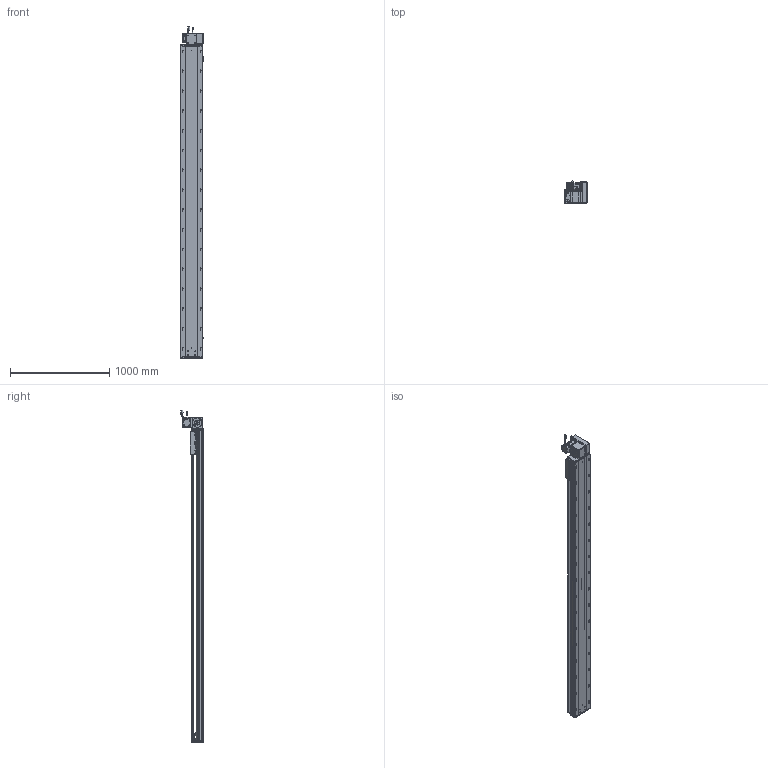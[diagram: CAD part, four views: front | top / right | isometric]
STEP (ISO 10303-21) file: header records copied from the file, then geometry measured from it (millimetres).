
FILE_DESCRIPTION (( 'STEP AP203' ), '1' );
FILE_NAME ('RY220-T-300-UR.SLDASM_2800.step', '2022-07-25T08:45:51', ( '' ), ( '' ), 'SwSTEP 2.0', 'SolidWorks 2016', '' );
FILE_SCHEMA (( 'CONFIG_CONTROL_DESIGN' ));
Length unit declared in the file: millimetre
Products named in the file (14): RY220-俋离672覜茼んえ; RY220-T-300-奻裔啣_2800; RY220圉猾敕々湍臏賑輸; RY220-T-蛌殏萇儂假蚾啣(750W); RY220翋肮祭謫釱; RY220-T菁釱-300_2800; 覜茼ん672; 怢湛750W_ECMA-CX0807ES; RY220-同步轮副支撑座6304×2; 滅袉蝶18-15; RY220-T-湍謫欶(鍼踢); 110A-T-肮祭謫釱傷裔; RY220翋肮祭謫裔啣; RY220-T-300-UR.SLDASM_2800
Assembly tree (18 placements, depth 2):
  RY220-T-300-UR.SLDASM_2800
    RY220-T菁釱-300_2800
    RY220翋肮祭謫釱
    覜茼ん672  x3
    RY220圉猾敕々湍臏賑輸
    RY220-T-300-奻裔啣_2800
    RY220-俋离672覜茼んえ
    滅袉蝶18-15  x3
    RY220翋肮祭謫裔啣  x2
    110A-T-肮祭謫釱傷裔
    怢湛750W_ECMA-CX0807ES
    RY220-T-湍謫欶(鍼踢)
    RY220-T-蛌殏萇儂假蚾啣(750W)
    RY220-同步轮副支撑座6304×2
Bounding box: 238.7 x 231.74 x 3353.27 mm (x, y, z)
Volume: 23910748.7 mm3; surface area: 7377035.7 mm2
Topology: 19 solids, 19 shells, 2990 faces, 8267 edges, 5178 vertices
Faces by surface type: cylinder 1470, plane 1069, cone 369, bspline 56, sphere 16, torus 10
Entity records: 99619 total; most frequent: CARTESIAN_POINT 28087, ORIENTED_EDGE 14778, DIRECTION 14264, EDGE_CURVE 7389, AXIS2_PLACEMENT_3D 5144, VERTEX_POINT 4802, LINE 3976, VECTOR 3976
